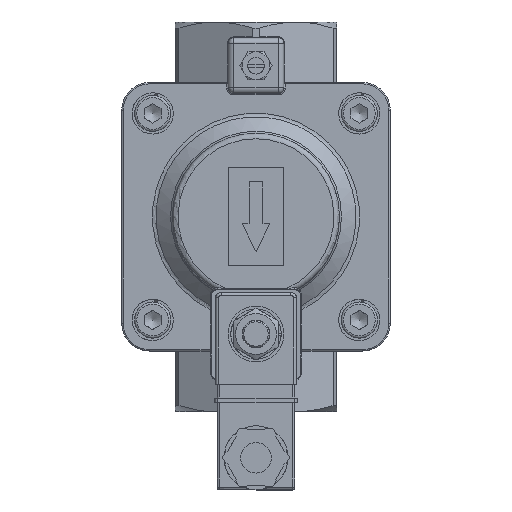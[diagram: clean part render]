
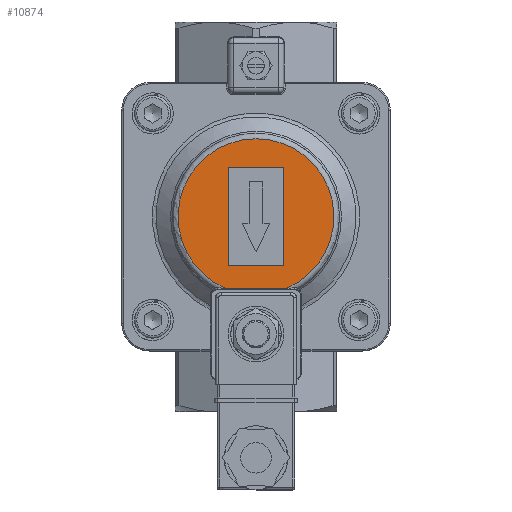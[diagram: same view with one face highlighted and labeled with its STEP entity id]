
A CAD part, top view. The second image highlights one B-rep face of the part: STEP entity #10874.
In plain terms, the highlighted planar face has unit normal (0, 0, 1).
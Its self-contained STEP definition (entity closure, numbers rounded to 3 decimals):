
#709=LINE('',#16433,#1494);
#712=LINE('',#16439,#1497);
#715=LINE('',#16445,#1500);
#718=LINE('',#16449,#1503);
#719=LINE('',#16454,#1504);
#1494=VECTOR('',#13153,10.);
#1497=VECTOR('',#13158,10.);
#1500=VECTOR('',#13163,10.);
#1503=VECTOR('',#13168,10.);
#1504=VECTOR('',#13173,10.);
#2429=FACE_BOUND('',#3178,.T.);
#2502=FACE_OUTER_BOUND('',#3177,.T.);
#3177=EDGE_LOOP('',(#7331,#7332));
#3178=EDGE_LOOP('',(#7333,#7334,#7335,#7336));
#3903=CIRCLE('',#11799,28.);
#4486=VERTEX_POINT('',#16430);
#4487=VERTEX_POINT('',#16432);
#4489=VERTEX_POINT('',#16438);
#4491=VERTEX_POINT('',#16444);
#4492=VERTEX_POINT('',#16452);
#4493=VERTEX_POINT('',#16453);
#5574=EDGE_CURVE('',#4487,#4486,#709,.T.);
#5577=EDGE_CURVE('',#4489,#4487,#712,.T.);
#5580=EDGE_CURVE('',#4491,#4489,#715,.T.);
#5583=EDGE_CURVE('',#4486,#4491,#718,.T.);
#5584=EDGE_CURVE('',#4492,#4493,#719,.T.);
#5585=EDGE_CURVE('',#4493,#4492,#3903,.T.);
#7331=ORIENTED_EDGE('',*,*,#5584,.F.);
#7332=ORIENTED_EDGE('',*,*,#5585,.F.);
#7333=ORIENTED_EDGE('',*,*,#5574,.T.);
#7334=ORIENTED_EDGE('',*,*,#5583,.T.);
#7335=ORIENTED_EDGE('',*,*,#5580,.T.);
#7336=ORIENTED_EDGE('',*,*,#5577,.T.);
#10573=PLANE('',#11798);
#10874=ADVANCED_FACE('',(#2502,#2429),#10573,.T.);
#11798=AXIS2_PLACEMENT_3D('',#16451,#13171,#13172);
#11799=AXIS2_PLACEMENT_3D('',#16455,#13174,#13175);
#13153=DIRECTION('',(0.,-1.,0.));
#13158=DIRECTION('',(1.,0.,0.));
#13163=DIRECTION('',(0.,1.,0.));
#13168=DIRECTION('',(-1.,0.,0.));
#13171=DIRECTION('center_axis',(0.,0.,1.));
#13172=DIRECTION('ref_axis',(1.,0.,0.));
#13173=DIRECTION('',(-1.,0.,0.));
#13174=DIRECTION('center_axis',(0.,0.,-1.));
#13175=DIRECTION('ref_axis',(0.,1.,0.));
#16430=CARTESIAN_POINT('',(10.,52.5,53.5));
#16432=CARTESIAN_POINT('',(10.,87.5,53.5));
#16433=CARTESIAN_POINT('',(10.,68.75,53.5));
#16438=CARTESIAN_POINT('',(-10.,87.5,53.5));
#16439=CARTESIAN_POINT('',(5.,87.5,53.5));
#16444=CARTESIAN_POINT('',(-10.,52.5,53.5));
#16445=CARTESIAN_POINT('',(-10.,86.25,53.5));
#16449=CARTESIAN_POINT('',(-5.,52.5,53.5));
#16451=CARTESIAN_POINT('Origin',(0.,85.,53.5));
#16452=CARTESIAN_POINT('',(10.997,44.25,53.5));
#16453=CARTESIAN_POINT('',(-10.997,44.25,53.5));
#16454=CARTESIAN_POINT('',(-8.,44.25,53.5));
#16455=CARTESIAN_POINT('Origin',(0.,70.,53.5));
